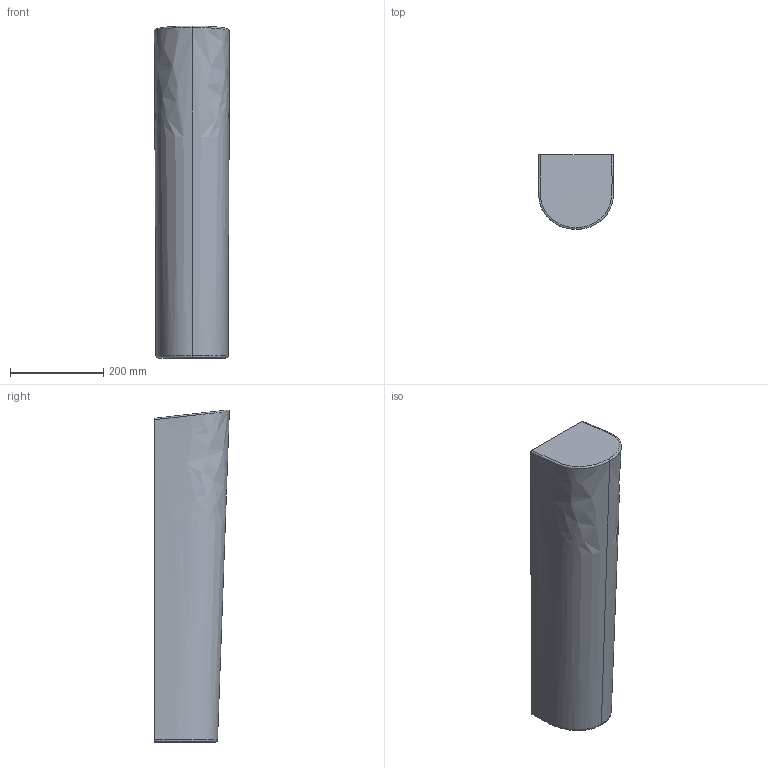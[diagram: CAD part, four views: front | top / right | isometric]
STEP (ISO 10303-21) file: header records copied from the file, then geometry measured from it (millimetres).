
FILE_DESCRIPTION(/* description */ (''),/* implementation_level */ '2;1');
FILE_NAME(/* name */ '725000_Subway_STSL.stp',/* time_stamp */ '2019-02-22T09:39:55+01:00',/* author */ (''),/* organization */ (''),/* preprocessor_version */ 'ST-DEVELOPER v16',/* originating_system */ 'SIEMENS PLM Software NX 10.0',/* authorisation */ '');
FILE_SCHEMA (('AUTOMOTIVE_DESIGN { 1 0 10303 214 3 1 1 1 }'));
Length unit declared in the file: millimetre
Products named in the file (1): math27C8D09Cbenj
Bounding box: 162.12 x 160.49 x 713.68 mm (x, y, z)
Volume: 14474572.9 mm3; surface area: 421565.8 mm2
Topology: 1 solids, 1 shells, 11 faces, 25 edges, 16 vertices
Faces by surface type: bspline 7, plane 4
Entity records: 1366 total; most frequent: CARTESIAN_POINT 1149, ORIENTED_EDGE 50, EDGE_CURVE 25, B_SPLINE_CURVE_WITH_KNOTS 21, VERTEX_POINT 16, DIRECTION 16, ADVANCED_FACE 11, FACE_OUTER_BOUND 11
